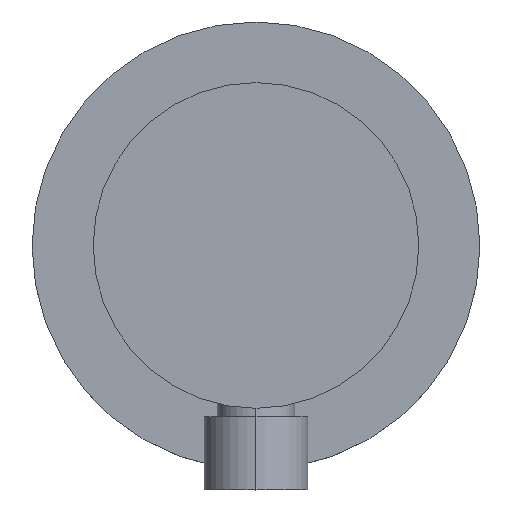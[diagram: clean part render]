
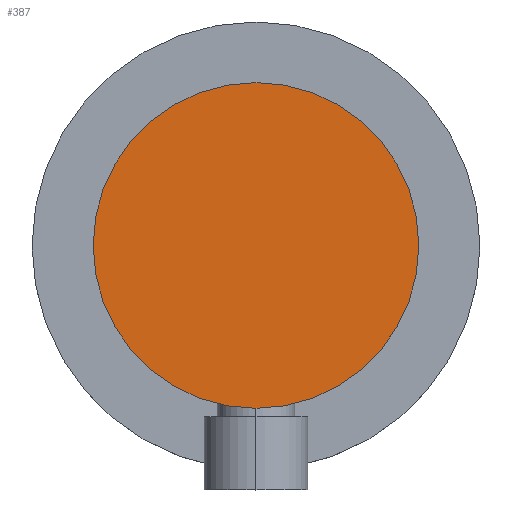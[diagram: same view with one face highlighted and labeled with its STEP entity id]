
A CAD part, top view. The second image highlights one B-rep face of the part: STEP entity #387.
In plain terms, the highlighted planar face has unit normal (0, 0, 1).
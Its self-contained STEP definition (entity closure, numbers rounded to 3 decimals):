
#387 = ADVANCED_FACE('',(#388),#408,.T.);
#388 = FACE_BOUND('',#389,.T.);
#389 = EDGE_LOOP('',(#390,#401));
#390 = ORIENTED_EDGE('',*,*,#391,.T.);
#391 = EDGE_CURVE('',#392,#394,#396,.T.);
#392 = VERTEX_POINT('',#393);
#393 = CARTESIAN_POINT('',(-20.,0.,
    35.5));
#394 = VERTEX_POINT('',#395);
#395 = CARTESIAN_POINT('',(20.,0.,
    35.5));
#396 = CIRCLE('',#397,20.);
#397 = AXIS2_PLACEMENT_3D('',#398,#399,#400);
#398 = CARTESIAN_POINT('',(0.,0.,
    35.5));
#399 = DIRECTION('',(0.,0.,1.));
#400 = DIRECTION('',(1.,0.,-0.));
#401 = ORIENTED_EDGE('',*,*,#402,.T.);
#402 = EDGE_CURVE('',#394,#392,#403,.T.);
#403 = CIRCLE('',#404,20.);
#404 = AXIS2_PLACEMENT_3D('',#405,#406,#407);
#405 = CARTESIAN_POINT('',(0.,0.,
    35.5));
#406 = DIRECTION('',(0.,0.,1.));
#407 = DIRECTION('',(1.,0.,-0.));
#408 = PLANE('',#409);
#409 = AXIS2_PLACEMENT_3D('',#410,#411,#412);
#410 = CARTESIAN_POINT('',(20.,0.,
    35.5));
#411 = DIRECTION('',(0.,0.,1.));
#412 = DIRECTION('',(0.,1.,0.));
